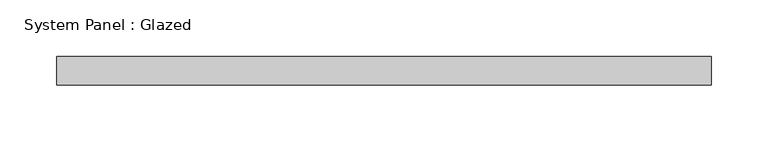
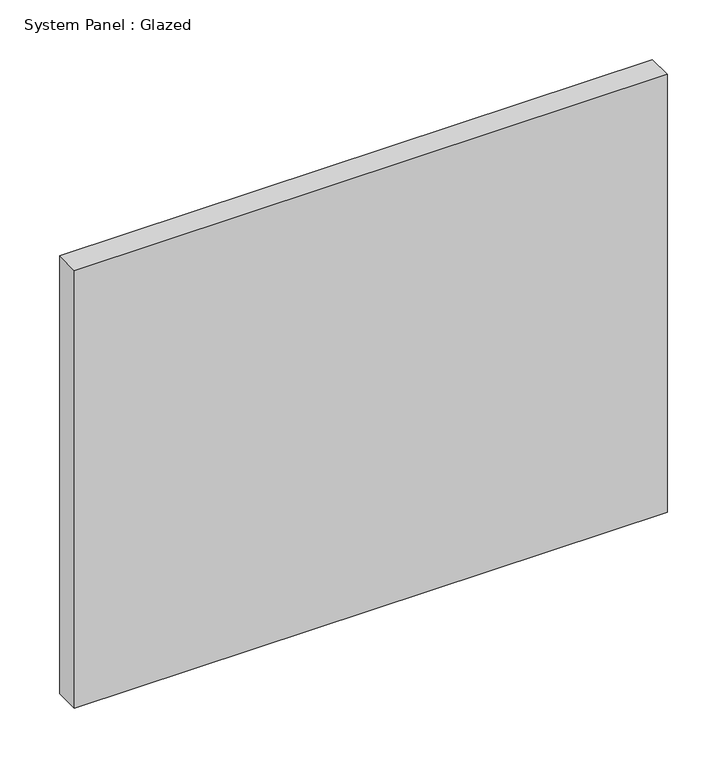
"""IFC4 building model written with IfcOpenShell, lengths in millimetres: plate geometry, System Panel : Glazed."""

import ifcopenshell
import ifcopenshell.guid

model = None  # the IFC model being written
_history = None  # IfcOwnerHistory: only IFC2X3 demands one
_inside = {}  # id of a spatial element -> (the spatial element, [elements in it])
_under = {}  # id of a project, library or spatial element -> (it, [spatial elements below it])
_declared = {}  # id of a project -> (the project, [libraries it declares])
_typed = {}  # id of a type object -> (the type object, [elements of that type])
_made_of = {}  # id of a material, layer set ... -> (it, [elements and type objects made of it])


def new_model(schema):
    """Start an empty IFC model of exactly this schema.

    Asked for "IFC4X3", IfcOpenShell would pick the latest addendum, in which some entities
    have other attributes; the version numbers below select the first issue.
    IFC2X3 requires an IfcOwnerHistory on every rooted entity: one is made here for all.
    """
    global model, _history
    if schema == "IFC4X3":
        model = ifcopenshell.file(schema_version=(4, 3, 0, 0))
    else:
        model = ifcopenshell.file(schema=schema)
    _inside.clear()
    _under.clear()
    _declared.clear()
    _typed.clear()
    _made_of.clear()
    _history = None
    if model.schema == "IFC2X3":
        org = make("IfcOrganization", Name="unknown")
        user = make(
            "IfcPersonAndOrganization",
            ThePerson=make("IfcPerson", FamilyName="unknown"),
            TheOrganization=org,
        )
        app = make(
            "IfcApplication",
            ApplicationDeveloper=org,
            Version="unknown",
            ApplicationFullName="unknown",
            ApplicationIdentifier="unknown",
        )
        _history = make(
            "IfcOwnerHistory",
            OwningUser=user,
            OwningApplication=app,
            ChangeAction="ADDED",
            CreationDate=0,
        )
    return model


def make(cls, **values):
    """One entity of the class cls with the attributes given. An attribute that is None is left unset."""
    return model.create_entity(
        cls, **{name: value for name, value in values.items() if value is not None}
    )


def rooted(cls, **values):
    """An entity with a GlobalId (a new one), such as an element, a storey or a relation."""
    return make(cls, GlobalId=ifcopenshell.guid.new(), OwnerHistory=_history, **values)


def si_unit(unit_type, name, prefix=None):
    """IfcSIUnit, for example si_unit("LENGTHUNIT", "METRE", prefix="MILLI")."""
    return make("IfcSIUnit", UnitType=unit_type, Prefix=prefix, Name=name)


def assignment(units):
    """IfcUnitAssignment: the units of a project."""
    return None if units is None else make("IfcUnitAssignment", Units=units)


def point(xyz):
    """IfcCartesianPoint."""
    return None if xyz is None else make("IfcCartesianPoint", Coordinates=xyz)


def direction(xyz):
    """IfcDirection."""
    return None if xyz is None else make("IfcDirection", DirectionRatios=xyz)


def frame(location, z_axis=None, x_axis=None):
    """IfcAxis2Placement3D, a coordinate frame: its origin and axes. An axis left out is left unset."""
    return make(
        "IfcAxis2Placement3D",
        Location=point(location),
        Axis=direction(z_axis),
        RefDirection=direction(x_axis),
    )


def origin():
    """The frame at (0, 0, 0) with its axes left unset."""
    return frame((0.0, 0.0, 0.0))


def origin_with_axes():
    """The frame at (0, 0, 0) with the z axis (0, 0, 1) and the x axis (1, 0, 0) written out."""
    return frame((0.0, 0.0, 0.0), z_axis=(0.0, 0.0, 1.0), x_axis=(1.0, 0.0, 0.0))


def place(relative_to, where):
    """IfcLocalPlacement: puts the frame where relative to a parent placement (None: the world)."""
    return make(
        "IfcLocalPlacement", PlacementRelTo=relative_to, RelativePlacement=where
    )


def context(
    kind, dimensions, precision=None, world=None, true_north=None, identifier=None
):
    """IfcGeometricRepresentationContext, for example the 3D "Model" context."""
    return make(
        "IfcGeometricRepresentationContext",
        ContextIdentifier=identifier,
        ContextType=kind,
        CoordinateSpaceDimension=dimensions,
        Precision=precision,
        WorldCoordinateSystem=world,
        TrueNorth=true_north,
    )


def project(units=None, contexts=None):
    """IfcProject with its units and contexts."""
    return rooted(
        "IfcProject",
        Name="project",
        RepresentationContexts=contexts,
        UnitsInContext=assignment(units),
    )


def spatial(cls, under=None, at=None, **own):
    """A site, building, storey or space (cls), placed at a placement, below another one or the project."""
    s = rooted(cls, ObjectPlacement=at, **own)
    if under is not None:
        _under.setdefault(under.id(), (under, []))[1].append(s)
    return s


def polyline(points):
    """IfcPolyline through the points."""
    return make("IfcPolyline", Points=[point(p) for p in points])


def outline(outer, holes=None, kind="AREA"):
    """IfcArbitraryClosedProfileDef: a profile drawn as a closed curve; with holes, ...WithVoids."""
    if holes is None:
        return make("IfcArbitraryClosedProfileDef", ProfileType=kind, OuterCurve=outer)
    return make(
        "IfcArbitraryProfileDefWithVoids",
        ProfileType=kind,
        OuterCurve=outer,
        InnerCurves=holes,
    )


def extrude(swept, where, along, depth):
    """IfcExtrudedAreaSolid: the profile swept, set in the frame where, extruded along a direction by depth."""
    return make(
        "IfcExtrudedAreaSolid",
        SweptArea=swept,
        Position=where,
        ExtrudedDirection=direction(along),
        Depth=depth,
    )


def shape(context_of_items, identifier, shape_type, items):
    """IfcShapeRepresentation: the items that make up one representation, for example the "Body"."""
    return make(
        "IfcShapeRepresentation",
        ContextOfItems=context_of_items,
        RepresentationIdentifier=identifier,
        RepresentationType=shape_type,
        Items=items,
    )


def source(mapping_origin, context_of_items, identifier, shape_type, items):
    """IfcRepresentationMap: a shape defined once, which mapped items show again and again."""
    return make(
        "IfcRepresentationMap",
        MappingOrigin=mapping_origin,
        MappedRepresentation=shape(context_of_items, identifier, shape_type, items),
    )


def transform(
    local_origin,
    x_axis=None,
    y_axis=None,
    z_axis=None,
    scale=None,
    scale2=None,
    scale3=None,
    uniform=True,
):
    """IfcCartesianTransformationOperator3D, or its non-uniform kind. x_axis, y_axis, z_axis: its Axis1, 2, 3."""
    if uniform:
        return make(
            "IfcCartesianTransformationOperator3D",
            Axis1=direction(x_axis),
            Axis2=direction(y_axis),
            LocalOrigin=point(local_origin),
            Scale=scale,
            Axis3=direction(z_axis),
        )
    return make(
        "IfcCartesianTransformationOperator3DnonUniform",
        Axis1=direction(x_axis),
        Axis2=direction(y_axis),
        LocalOrigin=point(local_origin),
        Scale=scale,
        Axis3=direction(z_axis),
        Scale2=scale2,
        Scale3=scale3,
    )


def mapped(mapping_source, mapping_target):
    """IfcMappedItem: shows the shape of a source again, moved by a transform."""
    return make(
        "IfcMappedItem", MappingSource=mapping_source, MappingTarget=mapping_target
    )


def made_of(thing, what):
    """Note that an element or type object is made of a material, layer set ...; save() writes the relation."""
    if what is not None:
        _made_of.setdefault(what.id(), (what, []))[1].append(thing)
    return thing


def element(
    cls,
    number,
    at=None,
    inside=None,
    cuts=None,
    type_object=None,
    material=None,
    context=None,
    identifier="Body",
    shape_type=None,
    held_by="IfcProductDefinitionShape",
    body=None,
    shapes=None,
    **own,
):
    """One element of the class cls, such as IfcWall. Its Tag is "e" and its number.

    at: its placement. inside: the storey or other place that contains it. cuts: it is an
    opening in that element (IfcRelVoidsElement). A single representation is given by context,
    identifier, shape_type and body (its items); several are given by shapes. held_by: the class
    of the entity that holds the representations. save() writes the other relations.
    """
    e = rooted(cls, Tag="e%d" % number, ObjectPlacement=at, **own)
    if body is not None:
        shapes = [shape(context, identifier, shape_type, body)]
    if shapes is not None:
        e.Representation = make(held_by, Representations=shapes)
    if inside is not None:
        _inside.setdefault(inside.id(), (inside, []))[1].append(e)
    if cuts is not None:
        rooted(
            "IfcRelVoidsElement", RelatingBuildingElement=cuts, RelatedOpeningElement=e
        )
    if type_object is not None:
        _typed.setdefault(type_object.id(), (type_object, []))[1].append(e)
    return made_of(e, material)


def aggregate(whole, parts):
    """IfcRelAggregates: a whole, such as a stair, and the parts it consists of."""
    return rooted("IfcRelAggregates", RelatingObject=whole, RelatedObjects=parts)


def save(model, path):
    """Write the relations noted so far, then the file.

    IfcRelAggregates (storeys below a building ...), IfcRelContainedInSpatialStructure (elements
    in a storey), IfcRelDefinesByType, IfcRelAssociatesMaterial and IfcRelDeclares: one each for
    every whole, place, type object, material and project.
    """
    for whole, parts in _under.values():
        aggregate(whole, parts)
    for where, things in _inside.values():
        rooted(
            "IfcRelContainedInSpatialStructure",
            RelatedElements=things,
            RelatingStructure=where,
        )
    for kind, things in _typed.values():
        rooted("IfcRelDefinesByType", RelatedObjects=things, RelatingType=kind)
    for what, things in _made_of.values():
        rooted("IfcRelAssociatesMaterial", RelatedObjects=things, RelatingMaterial=what)
    for by, libraries in _declared.values():
        rooted("IfcRelDeclares", RelatingContext=by, RelatedDefinitions=libraries)
    model.write(path)


def system_panel_glazed_9038425f(model_context):
    return source(origin(), model_context, "Body", "SweptSolid", [
        extrude(outline(polyline([(287.5, -12.5), (-287.5, -12.5), (-287.5, 12.5), (287.5, 12.5), (287.5, -12.5)])), origin_with_axes(), (0.0, 0.0, 1.0), 449.1666667),
    ])


if __name__ == "__main__":
    model = new_model("IFC4")
    model_context = context("Model", 3, world=origin())
    ifc_project = project(units=[si_unit("LENGTHUNIT", "METRE", prefix="MILLI")], contexts=[model_context])
    site = spatial("IfcSite", under=ifc_project)
    building = spatial("IfcBuilding", under=site)
    placement = place(None, origin())
    system_panel_glazed_shape = system_panel_glazed_9038425f(model_context)
    element("IfcPlate", 1, ObjectType="System Panel : Glazed", at=placement, inside=building, context=model_context, shape_type="MappedRepresentation", body=[
        mapped(system_panel_glazed_shape, transform((0.0, 0.0, 0.0), x_axis=(1.0, 0.0, 0.0), y_axis=(0.0, 1.0, 0.0), z_axis=(0.0, 0.0, 1.0))),
    ])
    save(model, "model.ifc")
